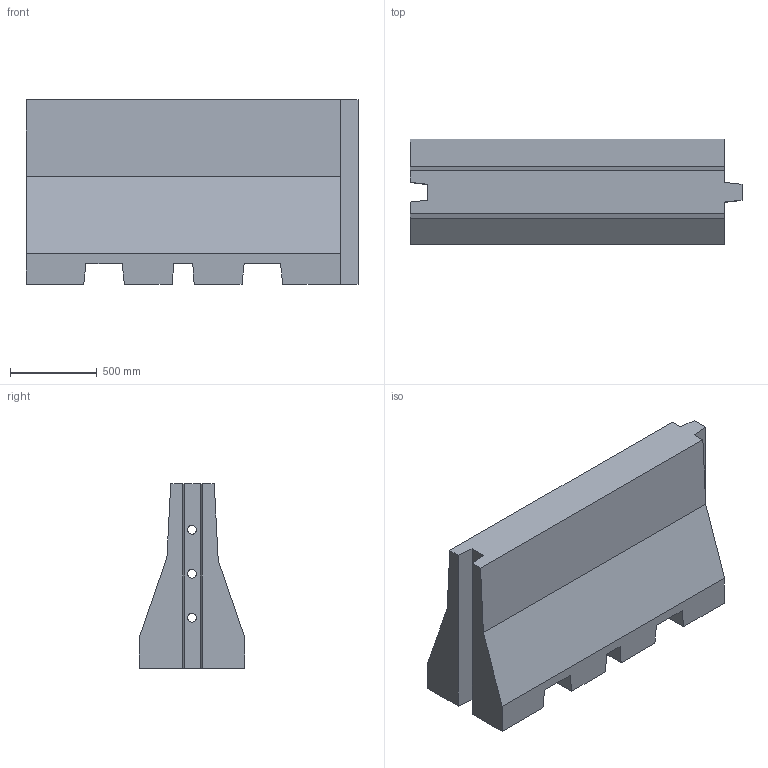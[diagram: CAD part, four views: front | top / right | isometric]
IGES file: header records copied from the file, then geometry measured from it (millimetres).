
Start section: START RECORD GO HERE.
Global section: file name: C:\Documents and Settings\Administrateur\Mes documents\CHARLES\majoly\muret.igs; native system: IBM CATIA IGES - CATIA Version 5 Release 8 ; preprocessor: CATIA Version 5 Release 8 ; organization: DASSAULT SYSTEMES; date: 20151101.104703; units: inch
Bounding box: 1917.7 x 609.6 x 1066.8 mm (x, y, z)
Surface area: 7909663.3 mm2 (no closed solid volume)
Topology: 0 solids, 0 shells, 36 faces, 212 edges, 212 vertices
Faces by surface type: bspline 36
